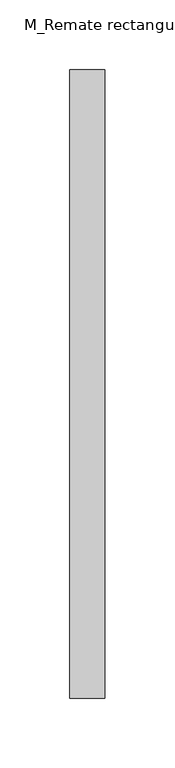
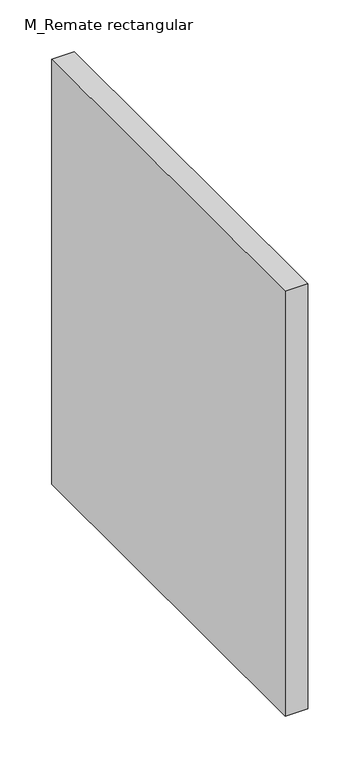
"""IFC4 building model written with IfcOpenShell, lengths in millimetres: duct fitting geometry, M_Remate rectangular : Estándar."""

from ifc_helpers import new_model, si_unit, frame, origin, place, context, project, spatial, polyline, outline, extrude, source, transform, mapped, element, save


def m_remate_rectangular_393c6ef7(model_context):
    return source(origin(), model_context, "Body", "SweptSolid", [
        extrude(outline(polyline([(0.0, -225.0), (0.0, 225.0), (25.0, 225.0), (25.0, -225.0), (0.0, -225.0)])), frame((0.0, 0.0, -250.0), z_axis=(0.0, 0.0, 1.0), x_axis=(1.0, 0.0, 0.0)), (0.0, 0.0, 1.0), 500.0),
    ])


if __name__ == "__main__":
    model = new_model("IFC4")
    model_context = context("Model", 3, world=origin())
    ifc_project = project(units=[si_unit("LENGTHUNIT", "METRE", prefix="MILLI")], contexts=[model_context])
    site = spatial("IfcSite", under=ifc_project)
    building = spatial("IfcBuilding", under=site)
    placement = place(None, origin())
    m_remate_rectangular_shape = m_remate_rectangular_393c6ef7(model_context)
    element("IfcDuctFitting", 1, ObjectType="M_Remate rectangular : Estándar", at=placement, inside=building, context=model_context, shape_type="MappedRepresentation", body=[
        mapped(m_remate_rectangular_shape, transform((0.0, 0.0, 0.0), x_axis=(1.0, 0.0, 0.0), y_axis=(0.0, 1.0, 0.0), z_axis=(0.0, 0.0, 1.0))),
    ])
    save(model, "model.ifc")
